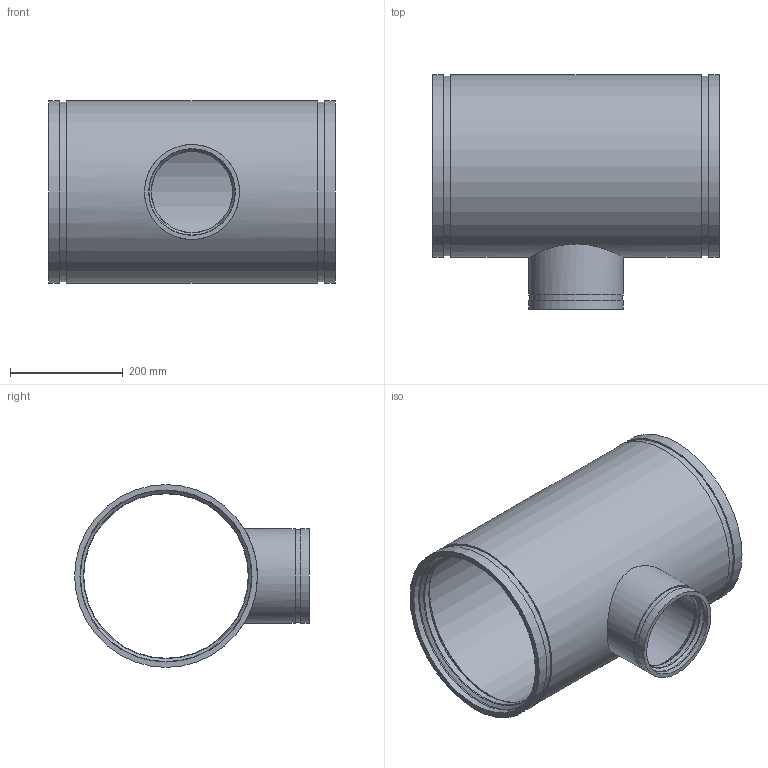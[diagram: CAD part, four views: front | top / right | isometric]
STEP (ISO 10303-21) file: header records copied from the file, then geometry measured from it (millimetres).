
FILE_DESCRIPTION(/* description */ ('VIC REDUCING TEE No 425H-SS','CAx-IF Rec.Pracs.---Representation and Presentation of Product Manufacturing Information (PMI)---4.0---2014-10-13'),/* implementation_level */ '2;1');
FILE_NAME(/* name */ 'C:\Users\kkamble\AppData\Roaming\Autodesk\ApplicationPlugins\Back Up\Victaulic_SS-OGS_Tee Reducing_Sched 40S_No 425H SS (OGS)\Victaulic_SS-OGS_Tee Reducing_Sched 40S_No 425H SS (OGS)_12.0x06.0 (300x150).stp',/* time_stamp */ '2020-08-27T17:20:34+06:00',/* author */ ('CORINNE GRAY'),/* organization */ ('Victaulic'),/* preprocessor_version */ 'ST-DEVELOPER v17.2',/* originating_system */ 'Autodesk Inventor 2019',/* authorisation */ '');
FILE_SCHEMA (('AP242_MANAGED_MODEL_BASED_3D_ENGINEERING_MIM_LF { 1 0 10303 442 1 1 4 }'));
Length unit declared in the file: inch
Products named in the file (1): 425H SS-12.0x06.0
Bounding box: 508 x 415.93 x 323.85 mm (x, y, z)
Volume: 5172267.1 mm3; surface area: 1114705.2 mm2
Topology: 1 solids, 1 shells, 43 faces, 134 edges, 100 vertices
Faces by surface type: cylinder 16, torus 12, plane 9, cone 6
Full cylindrical faces by diameter (mm): 143.383 x1, 153.67 x2, 163.957 x1, 168.275 x2, 291.313 x2, 304.8 x3, 318.287 x2, 323.85 x3
Entity records: 1919 total; most frequent: CARTESIAN_POINT 427, DIRECTION 352, ORIENTED_EDGE 268, AXIS2_PLACEMENT_3D 165, EDGE_CURVE 134, CIRCLE 108, VERTEX_POINT 100, EDGE_LOOP 54
